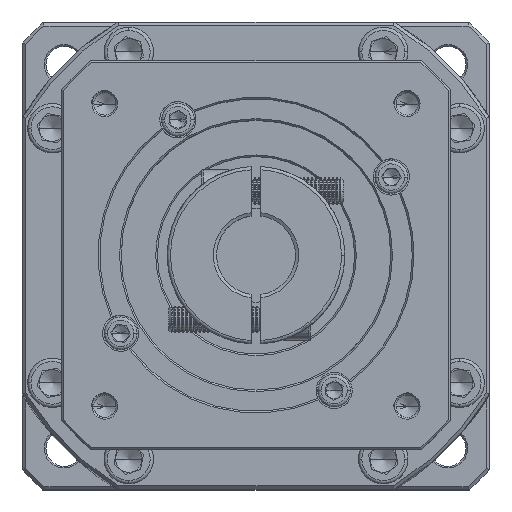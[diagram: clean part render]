
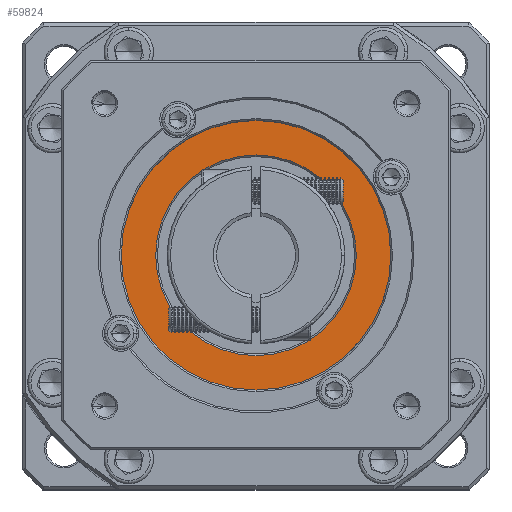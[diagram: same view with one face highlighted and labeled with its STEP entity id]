
A CAD part, top view. The second image highlights one B-rep face of the part: STEP entity #59824.
In plain terms, the highlighted planar face has unit normal (0, 0, 1).
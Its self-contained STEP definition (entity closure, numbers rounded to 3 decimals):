
#1361 = EDGE_LOOP ( 'NONE', ( #45581, #68760 ) ) ;
#3500 = CARTESIAN_POINT ( 'NONE',  ( -99.99, 118.535, -48.538 ) ) ;
#3974 = DIRECTION ( 'NONE',  ( 0., -1., 0. ) ) ;
#4505 = CIRCLE ( 'NONE', #6217, 41. ) ;
#6217 = AXIS2_PLACEMENT_3D ( 'NONE', #142272, #18397, #97369 ) ;
#18397 = DIRECTION ( 'NONE',  ( 0., 0., 1. ) ) ;
#22046 = VERTEX_POINT ( 'NONE', #106595 ) ;
#27104 = DIRECTION ( 'NONE',  ( 0., 0., -1. ) ) ;
#30291 = PLANE ( 'NONE',  #134447 ) ;
#34699 = CARTESIAN_POINT ( 'NONE',  ( -99.99, 88.035, -48.538 ) ) ;
#35871 = AXIS2_PLACEMENT_3D ( 'NONE', #116918, #27104, #3974 ) ;
#40811 = DIRECTION ( 'NONE',  ( 0., 0., 1. ) ) ;
#42219 = FACE_BOUND ( 'NONE', #117194, .T. ) ;
#42528 = AXIS2_PLACEMENT_3D ( 'NONE', #34699, #92449, #80150 ) ;
#43271 = EDGE_CURVE ( 'NONE', #22046, #130323, #122867, .T. ) ;
#45581 = ORIENTED_EDGE ( 'NONE', *, *, #43271, .T. ) ;
#45705 = CARTESIAN_POINT ( 'NONE',  ( -99.99, 57.535, -48.538 ) ) ;
#50187 = CARTESIAN_POINT ( 'NONE',  ( -99.99, 88.035, -48.538 ) ) ;
#54214 = ORIENTED_EDGE ( 'NONE', *, *, #96992, .T. ) ;
#54310 = AXIS2_PLACEMENT_3D ( 'NONE', #50187, #40811, #107415 ) ;
#58474 = EDGE_CURVE ( 'NONE', #101644, #117071, #134130, .T. ) ;
#59824 = ADVANCED_FACE ( 'NONE', ( #127332, #42219 ), #30291, .T. ) ;
#65841 = DIRECTION ( 'NONE',  ( 0., 0., 1. ) ) ;
#68760 = ORIENTED_EDGE ( 'NONE', *, *, #138924, .T. ) ;
#76168 = ORIENTED_EDGE ( 'NONE', *, *, #58474, .T. ) ;
#77153 = CARTESIAN_POINT ( 'NONE',  ( -99.99, 88.035, -48.538 ) ) ;
#80150 = DIRECTION ( 'NONE',  ( 0., -1., 0. ) ) ;
#92449 = DIRECTION ( 'NONE',  ( 0., 0., -1. ) ) ;
#96992 = EDGE_CURVE ( 'NONE', #117071, #101644, #113888, .T. ) ;
#97369 = DIRECTION ( 'NONE',  ( 1., 0., 0. ) ) ;
#101644 = VERTEX_POINT ( 'NONE', #3500 ) ;
#105228 = CARTESIAN_POINT ( 'NONE',  ( -140.99, 88.035, -48.538 ) ) ;
#106595 = CARTESIAN_POINT ( 'NONE',  ( -58.99, 88.035, -48.538 ) ) ;
#107415 = DIRECTION ( 'NONE',  ( 1., 0., 0. ) ) ;
#113888 = CIRCLE ( 'NONE', #42528, 30.5 ) ;
#116918 = CARTESIAN_POINT ( 'NONE',  ( -99.99, 88.035, -48.538 ) ) ;
#117071 = VERTEX_POINT ( 'NONE', #45705 ) ;
#117194 = EDGE_LOOP ( 'NONE', ( #54214, #76168 ) ) ;
#122867 = CIRCLE ( 'NONE', #54310, 41. ) ;
#127332 = FACE_OUTER_BOUND ( 'NONE', #1361, .T. ) ;
#130323 = VERTEX_POINT ( 'NONE', #105228 ) ;
#131959 = DIRECTION ( 'NONE',  ( 1., 0., 0. ) ) ;
#134130 = CIRCLE ( 'NONE', #35871, 30.5 ) ;
#134447 = AXIS2_PLACEMENT_3D ( 'NONE', #77153, #65841, #131959 ) ;
#138924 = EDGE_CURVE ( 'NONE', #130323, #22046, #4505, .T. ) ;
#142272 = CARTESIAN_POINT ( 'NONE',  ( -99.99, 88.035, -48.538 ) ) ;
